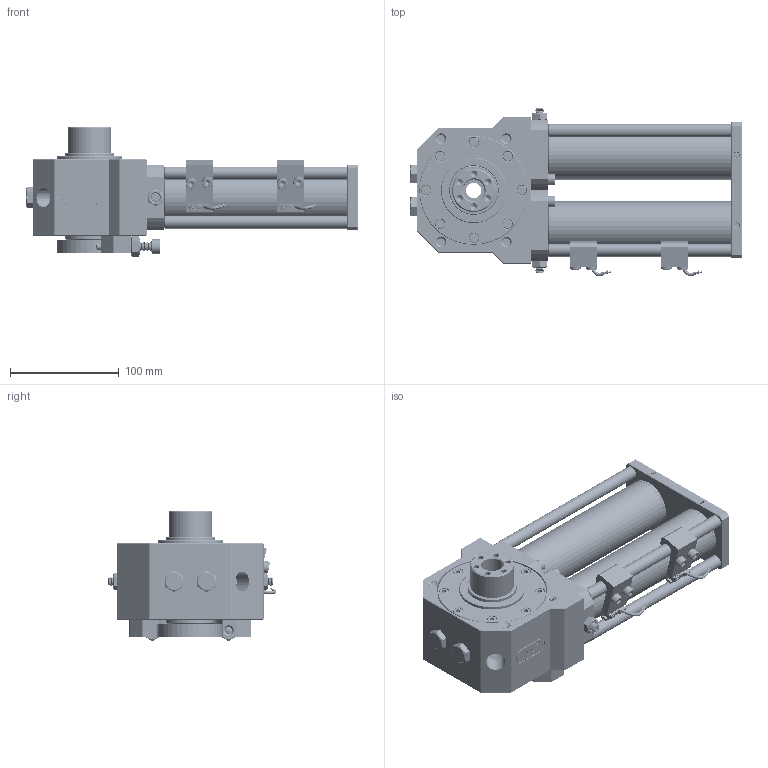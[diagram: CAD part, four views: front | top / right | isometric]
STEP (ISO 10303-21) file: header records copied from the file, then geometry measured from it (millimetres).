
FILE_DESCRIPTION((''),'2;1');
FILE_NAME('C:\Users\RND-KDY\Desktop\RJC40-180_190405.stp','2019-04-08T10:55:57',('RND-KDY'),(''),'Autodesk Inventor 2013','Autodesk Inventor 2013','');
FILE_SCHEMA(('AUTOMOTIVE_DESIGN { 1 0 10303 214 1 1 1 1 }'));
Length unit declared in the file: metre
Products named in the file (61): RJC40-90_190405 (세부 수준1); Part2; Part4; Part10; Part11; Part12; Part16; Part17; Part18; Part19; Part20; Part21; Part23; Part24; Part25; Part26; Part39; Part40; Part41; Part44; Part45; Part46; Part47; Part48; Part51; Part55; Part57; Part62; 부품85; 부품86; ISO 4762 M6 x 10; 조립품6; Part67; Text3D - www; 본체; JRT; Part60_1; 조립품9; 어셈블리7_MIR; HOUSING_MIR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
Assembly tree (71 placements, depth 4):
  RJC40-90_190405 (세부 수준1)
    Part2
    Part4
    Part10
    Part11
    Part12
    Part16
    Part17
    Part18
    Part19
    Part20
    Part21
    Part23
    Part24
    Part25
    Part26
    Part39
    Part40
    Part41
    Part44
    Part45
    Part46  x2
    Part47
    Part48
    Part51
    Part55
    Part57
    Part62
    부품85
    부품86
    ISO 4762 M6 x 10  x8
    조립품6
      Part67
      Text3D - www
      본체
      JRT
      Part60_1
    조립품9  x2
      어셈블리7_MIR
        HOUSING_MIR
        파트7_MIR
        Part51_MIR
        Part57_MIR
        Part57_1_MIR
        파트19_MIR
        3DM306_MIR
        파트30_MIR
      ISO 4762 M6 x 10
      부품87
    조립품5
      Part1
      Part3
      Part5
      Part6
      Part7
      Part8
      Part9
    Part61
    Part62_MIR
    Part62_MIR1
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Bounding box: 305 x 154.4 x 119.81 mm (x, y, z)
Volume: 1238233.5 mm3; surface area: 363867.9 mm2
Topology: 90 solids, 90 shells, 5100 faces, 11261 edges, 6631 vertices
Faces by surface type: plane 3100, cone 962, cylinder 872, bspline 101, torus 51, sphere 14
Full cylindrical faces by diameter (mm): 2.1 x2, 2.6 x8, 2.8 x2, 3 x4, 3.12 x4, 3.8 x10, 4.134 x38, 4.16 x4, 4.917 x14, 5 x36, 6 x18, 6.5 x16, 6.614 x274, 8 x290, 8.268 x6, 8.5 x8, 9 x10, 10 x22, 10.2 x4, 11 x8, 12 x4, 13.6 x4, 14 x3, 18 x1, 18.449 x1, 20 x2, 30 x4, 40 x5, 45 x13, 50 x2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
Entity records: 122425 total; most frequent: CARTESIAN_POINT 21961, DIRECTION 20051, ORIENTED_EDGE 17430, EDGE_CURVE 8715, AXIS2_PLACEMENT_3D 6794, EDGE_LOOP 6785, VECTOR 6463, LINE 6463
